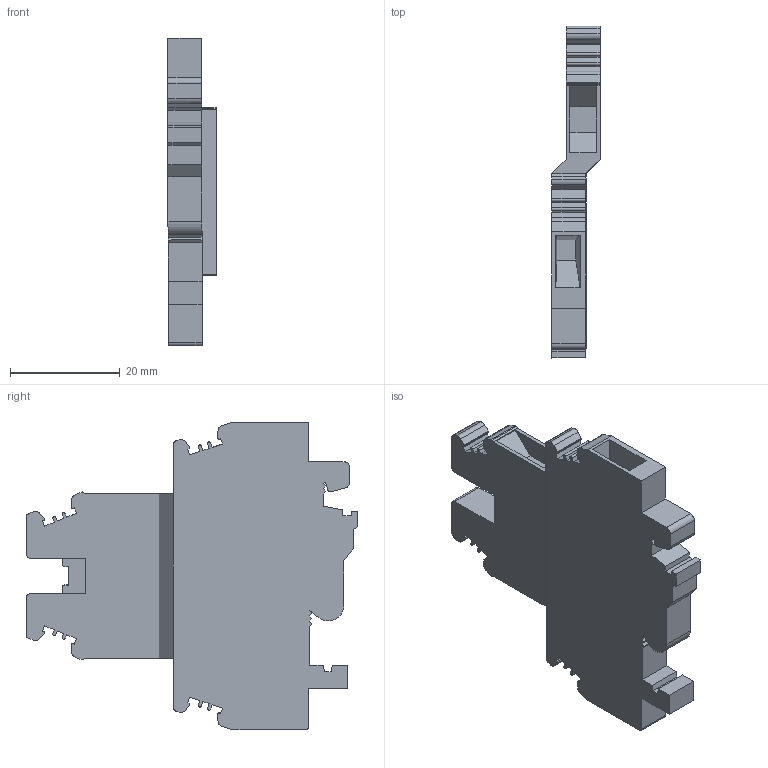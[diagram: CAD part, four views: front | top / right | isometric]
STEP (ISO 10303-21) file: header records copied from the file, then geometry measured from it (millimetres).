
FILE_DESCRIPTION((''),'2;1');
FILE_NAME('PRT0023','2020-05-29T',('Administrator'),(''),'PRO/ENGINEER BY PARAMETRIC TECHNOLOGY CORPORATION, 2014000','PRO/ENGINEER BY PARAMETRIC TECHNOLOGY CORPORATION, 2014000','');
FILE_SCHEMA(('CONFIG_CONTROL_DESIGN'));
Length unit declared in the file: millimetre
Products named in the file (1): PRT0023
Bounding box: 8.88 x 60.55 x 56.01 mm (x, y, z)
Volume: 12811.4 mm3; surface area: 6960.2 mm2
Topology: 1 solids, 1 shells, 204 faces, 598 edges, 404 vertices
Faces by surface type: plane 155, cylinder 49
Entity records: 6796 total; most frequent: CARTESIAN_POINT 1206, ORIENTED_EDGE 1196, DIRECTION 1114, EDGE_CURVE 598, VECTOR 490, LINE 490, VERTEX_POINT 404, AXIS2_PLACEMENT_3D 312
